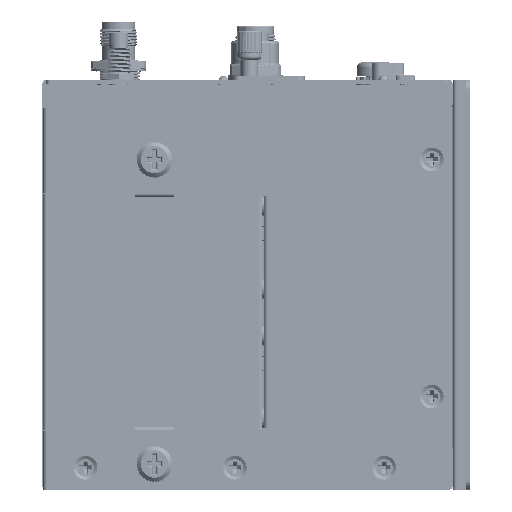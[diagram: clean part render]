
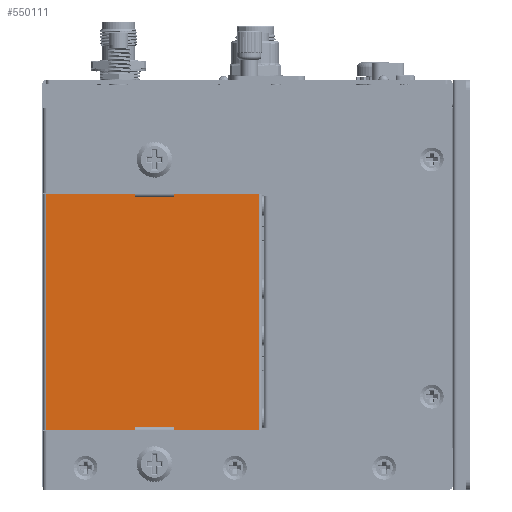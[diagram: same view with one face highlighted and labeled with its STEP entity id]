
A CAD part, left-side view. The second image highlights one B-rep face of the part: STEP entity #550111.
In plain terms, the highlighted planar face has unit normal (1, 0, 0).
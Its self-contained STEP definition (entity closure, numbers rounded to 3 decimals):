
#548675=DIRECTION('',(0.,1.,0.));
#548676=VECTOR('',#548675,11.2);
#548677=CARTESIAN_POINT('',(-80.,80.4,25.7));
#548678=LINE('',#548677,#548676);
#548682=DIRECTION('',(0.,0.,-1.));
#548683=VECTOR('',#548682,1.);
#548684=CARTESIAN_POINT('',(-80.,91.6,26.7));
#548685=LINE('',#548684,#548683);
#548869=DIRECTION('',(0.,0.,-1.));
#548870=VECTOR('',#548869,69.2);
#548871=CARTESIAN_POINT('',(-80.,117.6,26.7));
#548872=LINE('',#548871,#548870);
#548905=DIRECTION('',(0.,-1.,0.));
#548906=VECTOR('',#548905,26.);
#548907=CARTESIAN_POINT('',(-80.,117.6,26.7));
#548908=LINE('',#548907,#548906);
#548962=DIRECTION('',(0.,1.,0.));
#548963=VECTOR('',#548962,26.);
#548964=CARTESIAN_POINT('',(-80.,91.6,-42.5));
#548965=LINE('',#548964,#548963);
#548983=DIRECTION('',(0.,0.,1.));
#548984=VECTOR('',#548983,1.);
#548985=CARTESIAN_POINT('',(-80.,91.6,-42.5));
#548986=LINE('',#548985,#548984);
#549338=DIRECTION('',(0.,0.,-1.));
#549339=VECTOR('',#549338,1.);
#549340=CARTESIAN_POINT('',(-80.,80.4,26.7));
#549341=LINE('',#549340,#549339);
#549359=DIRECTION('',(0.,-1.,0.));
#549360=VECTOR('',#549359,25.);
#549361=CARTESIAN_POINT('',(-80.,80.4,26.7));
#549362=LINE('',#549361,#549360);
#549482=DIRECTION('',(0.,1.,0.));
#549483=VECTOR('',#549482,25.);
#549484=CARTESIAN_POINT('',(-80.,55.4,-42.5));
#549485=LINE('',#549484,#549483);
#549489=DIRECTION('',(0.,0.,1.));
#549490=VECTOR('',#549489,1.);
#549491=CARTESIAN_POINT('',(-80.,80.4,-42.5));
#549492=LINE('',#549491,#549490);
#549524=DIRECTION('',(0.,0.,1.));
#549525=VECTOR('',#549524,69.2);
#549526=CARTESIAN_POINT('',(-80.,55.4,-42.5));
#549527=LINE('',#549526,#549525);
#549774=DIRECTION('',(0.,-1.,0.));
#549775=VECTOR('',#549774,11.2);
#549776=CARTESIAN_POINT('',(-80.,91.6,-41.5));
#549777=LINE('',#549776,#549775);
#549881=CARTESIAN_POINT('',(-80.,80.4,25.7));
#549883=VERTEX_POINT('',#549881);
#549885=CARTESIAN_POINT('',(-80.,91.6,25.7));
#549887=VERTEX_POINT('',#549885);
#549889=CARTESIAN_POINT('',(-80.,80.4,-41.5));
#549891=VERTEX_POINT('',#549889);
#549893=CARTESIAN_POINT('',(-80.,91.6,-41.5));
#549895=VERTEX_POINT('',#549893);
#549901=CARTESIAN_POINT('',(-80.,80.4,26.7));
#549902=CARTESIAN_POINT('',(-80.,55.4,26.7));
#549903=VERTEX_POINT('',#549901);
#549904=VERTEX_POINT('',#549902);
#549905=CARTESIAN_POINT('',(-80.,55.4,-42.5));
#549906=VERTEX_POINT('',#549905);
#549907=CARTESIAN_POINT('',(-80.,80.4,-42.5));
#549908=VERTEX_POINT('',#549907);
#549909=CARTESIAN_POINT('',(-80.,91.6,-42.5));
#549910=CARTESIAN_POINT('',(-80.,117.6,-42.5));
#549911=VERTEX_POINT('',#549909);
#549912=VERTEX_POINT('',#549910);
#549913=CARTESIAN_POINT('',(-80.,117.6,26.7));
#549914=VERTEX_POINT('',#549913);
#549915=CARTESIAN_POINT('',(-80.,91.6,26.7));
#549916=VERTEX_POINT('',#549915);
#550081=CARTESIAN_POINT('',(-80.,86.5,-7.9));
#550082=DIRECTION('',(1.,0.,0.));
#550083=DIRECTION('',(0.,0.,-1.));
#550084=AXIS2_PLACEMENT_3D('',#550081,#550082,#550083);
#550085=PLANE('',#550084);
#550086=ORIENTED_EDGE('',*,*,#550070,.T.);
#550088=ORIENTED_EDGE('',*,*,#550087,.F.);
#550090=ORIENTED_EDGE('',*,*,#550089,.F.);
#550092=ORIENTED_EDGE('',*,*,#550091,.T.);
#550094=ORIENTED_EDGE('',*,*,#550093,.F.);
#550096=ORIENTED_EDGE('',*,*,#550095,.T.);
#550098=ORIENTED_EDGE('',*,*,#550097,.T.);
#550100=ORIENTED_EDGE('',*,*,#550099,.F.);
#550102=ORIENTED_EDGE('',*,*,#550101,.F.);
#550104=ORIENTED_EDGE('',*,*,#550103,.T.);
#550106=ORIENTED_EDGE('',*,*,#550105,.F.);
#550108=ORIENTED_EDGE('',*,*,#550107,.T.);
#550109=EDGE_LOOP('',(#550086,#550088,#550090,#550092,#550094,#550096,#550098,
#550100,#550102,#550104,#550106,#550108));
#550110=FACE_OUTER_BOUND('',#550109,.F.);
#550111=ADVANCED_FACE('',(#550110),#550085,.T.);
#550070=EDGE_CURVE('',#549883,#549887,#548678,.T.);
#550087=EDGE_CURVE('',#549916,#549887,#548685,.T.);
#550089=EDGE_CURVE('',#549914,#549916,#548908,.T.);
#550091=EDGE_CURVE('',#549914,#549912,#548872,.T.);
#550093=EDGE_CURVE('',#549911,#549912,#548965,.T.);
#550095=EDGE_CURVE('',#549911,#549895,#548986,.T.);
#550097=EDGE_CURVE('',#549895,#549891,#549777,.T.);
#550099=EDGE_CURVE('',#549908,#549891,#549492,.T.);
#550101=EDGE_CURVE('',#549906,#549908,#549485,.T.);
#550103=EDGE_CURVE('',#549906,#549904,#549527,.T.);
#550105=EDGE_CURVE('',#549903,#549904,#549362,.T.);
#550107=EDGE_CURVE('',#549903,#549883,#549341,.T.);
